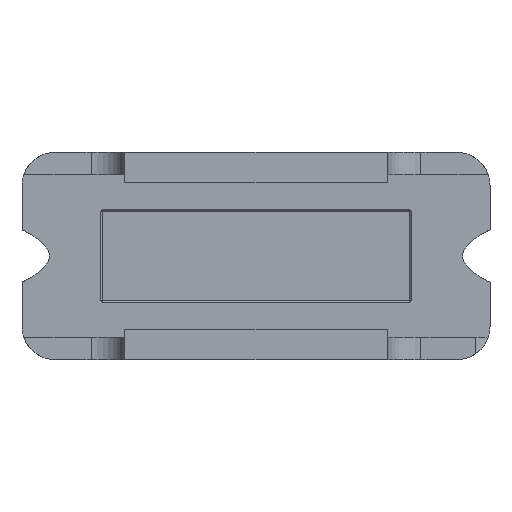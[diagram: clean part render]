
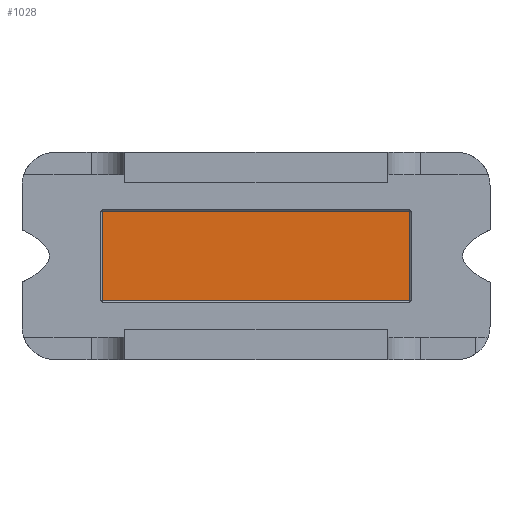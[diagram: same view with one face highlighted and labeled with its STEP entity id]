
A CAD part, front view. The second image highlights one B-rep face of the part: STEP entity #1028.
In plain terms, the highlighted planar face has unit normal (0, -1, 0).
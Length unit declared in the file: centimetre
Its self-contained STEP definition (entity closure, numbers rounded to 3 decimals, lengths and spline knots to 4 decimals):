
#1028 = ADVANCED_FACE ( 'NONE', ( #8100 ), #6987, .F. ) ;
#1357 = EDGE_CURVE ( 'NONE', #4696, #4279, #5341, .T. ) ;
#1358 = EDGE_CURVE ( 'NONE', #4398, #4696, #5340, .T. ) ;
#1808 = CARTESIAN_POINT ( 'NONE',  ( -1.0922, -1.0668, -0.3048 ) ) ;
#1857 = CARTESIAN_POINT ( 'NONE',  ( 1.0922, -1.0668, -0.3048 ) ) ;
#1862 = CARTESIAN_POINT ( 'NONE',  ( 1.0795, -1.0668, -0.3175 ) ) ;
#1888 = CARTESIAN_POINT ( 'NONE',  ( 1.0795, -1.0668, 0.3175 ) ) ;
#1912 = CARTESIAN_POINT ( 'NONE',  ( -1.0922, -1.0668, 0.3048 ) ) ;
#1922 = CARTESIAN_POINT ( 'NONE',  ( -1.0795, -1.0668, 0.3175 ) ) ;
#2746 = CARTESIAN_POINT ( 'NONE',  ( -1.0795, -1.0668, -0.3175 ) ) ;
#2777 = CARTESIAN_POINT ( 'NONE',  ( 1.0922, -1.0668, 0.3048 ) ) ;
#3447 = AXIS2_PLACEMENT_3D ( 'NONE', #5904, #5905, #5906 ) ;
#3476 = AXIS2_PLACEMENT_3D ( 'NONE', #5745, #5746, #5747 ) ;
#3479 = AXIS2_PLACEMENT_3D ( 'NONE', #5690, #5691, #5692 ) ;
#3500 = EDGE_CURVE ( 'NONE', #4477, #4512, #5253, .T. ) ;
#3568 = AXIS2_PLACEMENT_3D ( 'NONE', #7461, #7462, #7463 ) ;
#3589 = EDGE_CURVE ( 'NONE', #4512, #4398, #5228, .T. ) ;
#3591 = EDGE_CURVE ( 'NONE', #4279, #4269, #5229, .T. ) ;
#3651 = EDGE_CURVE ( 'NONE', #4576, #4025, #5193, .T. ) ;
#3652 = EDGE_CURVE ( 'NONE', #4025, #4477, #5192, .T. ) ;
#3729 = EDGE_CURVE ( 'NONE', #4269, #4576, #5154, .T. ) ;
#3853 = AXIS2_PLACEMENT_3D ( 'NONE', #6986, #7004, #7005 ) ;
#4025 = VERTEX_POINT ( 'NONE', #1808 ) ;
#4072 = ORIENTED_EDGE ( 'NONE', *, *, #3729, .F. ) ;
#4269 = VERTEX_POINT ( 'NONE', #1862 ) ;
#4277 = ORIENTED_EDGE ( 'NONE', *, *, #3500, .F. ) ;
#4279 = VERTEX_POINT ( 'NONE', #1857 ) ;
#4297 = EDGE_LOOP ( 'NONE', ( #4894, #4719, #4581, #4277, #4699, #4794, #4072, #4438 ) ) ;
#4398 = VERTEX_POINT ( 'NONE', #1888 ) ;
#4438 = ORIENTED_EDGE ( 'NONE', *, *, #3591, .F. ) ;
#4477 = VERTEX_POINT ( 'NONE', #1912 ) ;
#4512 = VERTEX_POINT ( 'NONE', #1922 ) ;
#4576 = VERTEX_POINT ( 'NONE', #2746 ) ;
#4581 = ORIENTED_EDGE ( 'NONE', *, *, #3589, .F. ) ;
#4696 = VERTEX_POINT ( 'NONE', #2777 ) ;
#4699 = ORIENTED_EDGE ( 'NONE', *, *, #3652, .F. ) ;
#4719 = ORIENTED_EDGE ( 'NONE', *, *, #1358, .F. ) ;
#4794 = ORIENTED_EDGE ( 'NONE', *, *, #3651, .F. ) ;
#4894 = ORIENTED_EDGE ( 'NONE', *, *, #1357, .F. ) ;
#5151 = VECTOR ( 'NONE', #5974, 100. ) ;
#5154 = LINE ( 'NONE', #5973, #5151 ) ;
#5190 = VECTOR ( 'NONE', #5898, 100. ) ;
#5192 = LINE ( 'NONE', #5897, #5190 ) ;
#5193 = CIRCLE ( 'NONE', #3447, 0.0127 ) ;
#5225 = VECTOR ( 'NONE', #5739, 100. ) ;
#5228 = LINE ( 'NONE', #5738, #5225 ) ;
#5229 = CIRCLE ( 'NONE', #3476, 0.0127 ) ;
#5253 = CIRCLE ( 'NONE', #3479, 0.0127 ) ;
#5339 = VECTOR ( 'NONE', #7457, 100. ) ;
#5340 = CIRCLE ( 'NONE', #3568, 0.0127 ) ;
#5341 = LINE ( 'NONE', #7456, #5339 ) ;
#5690 = CARTESIAN_POINT ( 'NONE',  ( -1.0795, -1.0668, 0.3048 ) ) ;
#5691 = DIRECTION ( 'NONE',  ( 0., 1., 0. ) ) ;
#5692 = DIRECTION ( 'NONE',  ( 0., 0., -1. ) ) ;
#5738 = CARTESIAN_POINT ( 'NONE',  ( -0.2114, -1.0668, 0.3175 ) ) ;
#5739 = DIRECTION ( 'NONE',  ( 1., 0., 0. ) ) ;
#5745 = CARTESIAN_POINT ( 'NONE',  ( 1.0795, -1.0668, -0.3048 ) ) ;
#5746 = DIRECTION ( 'NONE',  ( 0., 1., 0. ) ) ;
#5747 = DIRECTION ( 'NONE',  ( 0., 0., -1. ) ) ;
#5897 = CARTESIAN_POINT ( 'NONE',  ( -1.0922, -1.0668, 0. ) ) ;
#5898 = DIRECTION ( 'NONE',  ( 0., 0., 1. ) ) ;
#5904 = CARTESIAN_POINT ( 'NONE',  ( -1.0795, -1.0668, -0.3048 ) ) ;
#5905 = DIRECTION ( 'NONE',  ( 0., 1., 0. ) ) ;
#5906 = DIRECTION ( 'NONE',  ( 0., 0., -1. ) ) ;
#5973 = CARTESIAN_POINT ( 'NONE',  ( -0.2114, -1.0668, -0.3175 ) ) ;
#5974 = DIRECTION ( 'NONE',  ( -1., 0., 0. ) ) ;
#6986 = CARTESIAN_POINT ( 'NONE',  ( 0., -1.0668, 0. ) ) ;
#6987 = PLANE ( 'NONE',  #3853 ) ;
#7004 = DIRECTION ( 'NONE',  ( 0., 1., 0. ) ) ;
#7005 = DIRECTION ( 'NONE',  ( 0., 0., 1. ) ) ;
#7456 = CARTESIAN_POINT ( 'NONE',  ( 1.0922, -1.0668, 0. ) ) ;
#7457 = DIRECTION ( 'NONE',  ( 0., 0., -1. ) ) ;
#7461 = CARTESIAN_POINT ( 'NONE',  ( 1.0795, -1.0668, 0.3048 ) ) ;
#7462 = DIRECTION ( 'NONE',  ( 0., 1., 0. ) ) ;
#7463 = DIRECTION ( 'NONE',  ( 0., 0., -1. ) ) ;
#8100 = FACE_OUTER_BOUND ( 'NONE', #4297, .T. ) ;
